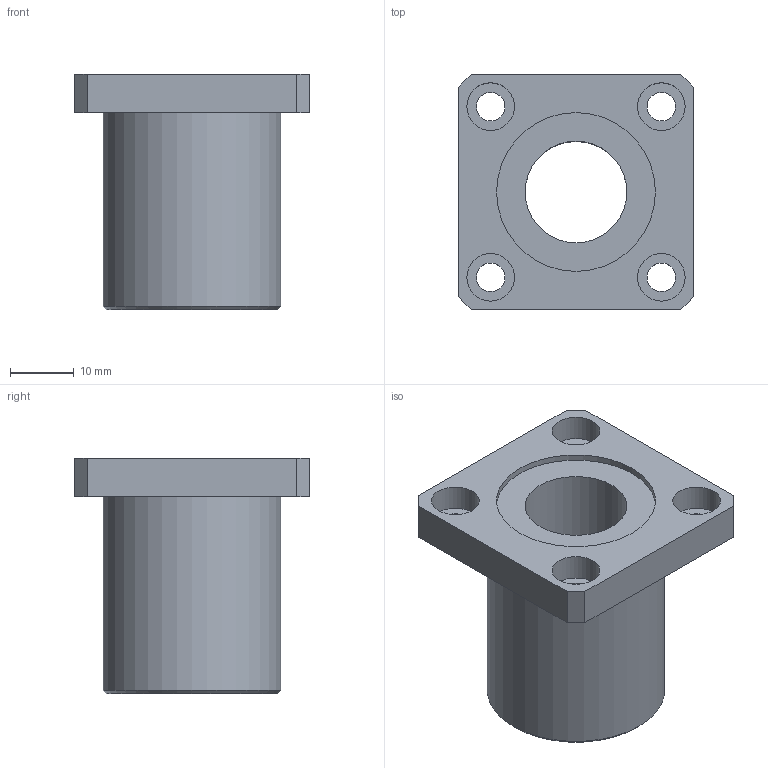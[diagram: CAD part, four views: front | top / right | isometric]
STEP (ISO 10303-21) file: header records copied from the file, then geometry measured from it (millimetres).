
FILE_DESCRIPTION(('STEP AP214'), '1');
FILE_NAME('LMK16UU - Øàðèêîâàÿ âòóëêà ñ ôëàíöåì ñåðèè LMK', '', ('UNSPECIFIED'), ('UNSPECIFIED'), 'ASCON STEP Converter 1.3', 'ASCON Math Kernel', '');
FILE_SCHEMA(('AUTOMOTIVE_DESIGN { 1 0 10303 214 3 1 1}'));
Length unit declared in the file: millimetre
Products named in the file (1): LMK16UU
Bounding box: 37 x 37 x 37 mm (x, y, z)
Volume: 18379.1 mm3; surface area: 8163.6 mm2
Topology: 1 solids, 1 shells, 30 faces, 62 edges, 41 vertices
Faces by surface type: plane 17, cylinder 12, cone 1
Full cylindrical faces by diameter (mm): 4.5 x4, 7.5 x4, 16 x1, 25 x2, 28 x1
Entity records: 1042 total; most frequent: DIRECTION 136, CARTESIAN_POINT 121, ORIENTED_EDGE 98, EDGE_LOOP 60, AXIS2_PLACEMENT_3D 56, EDGE_CURVE 49, VERTEX_POINT 41, FACE_BOUND 34
